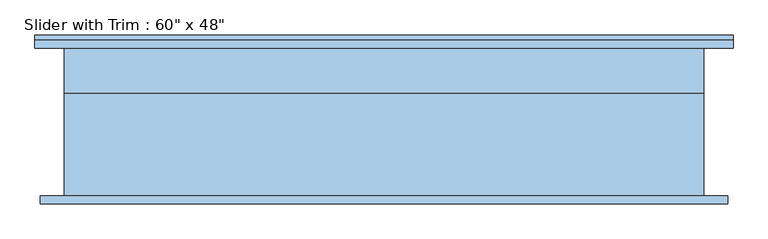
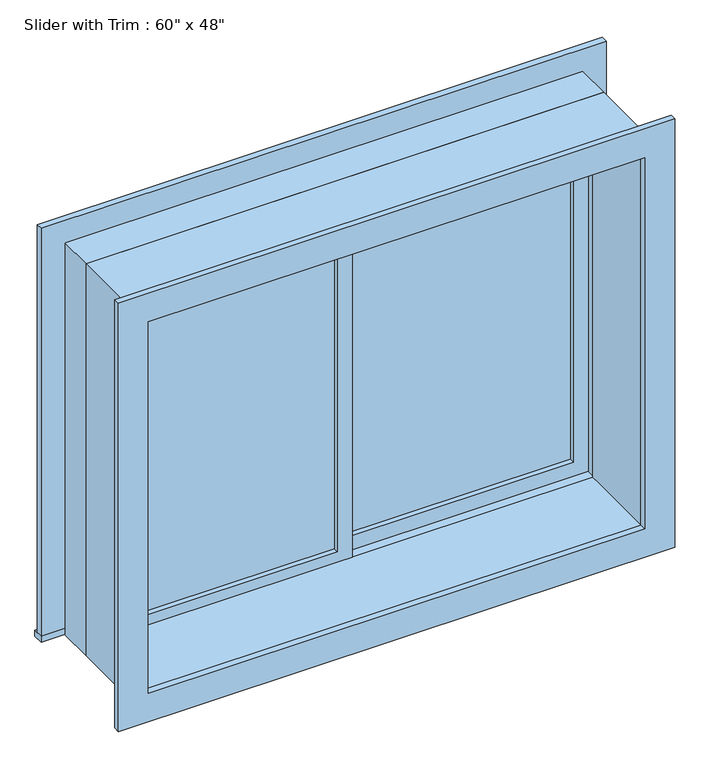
"""IFC4 building model written with IfcOpenShell, lengths in millimetres: window geometry."""

import ifcopenshell
import ifcopenshell.guid

model = None  # the IFC model being written
_history = None  # IfcOwnerHistory: only IFC2X3 demands one
_inside = {}  # id of a spatial element -> (the spatial element, [elements in it])
_under = {}  # id of a project, library or spatial element -> (it, [spatial elements below it])
_declared = {}  # id of a project -> (the project, [libraries it declares])
_typed = {}  # id of a type object -> (the type object, [elements of that type])
_made_of = {}  # id of a material, layer set ... -> (it, [elements and type objects made of it])


def new_model(schema):
    """Start an empty IFC model of exactly this schema.

    Asked for "IFC4X3", IfcOpenShell would pick the latest addendum, in which some entities
    have other attributes; the version numbers below select the first issue.
    IFC2X3 requires an IfcOwnerHistory on every rooted entity: one is made here for all.
    """
    global model, _history
    if schema == "IFC4X3":
        model = ifcopenshell.file(schema_version=(4, 3, 0, 0))
    else:
        model = ifcopenshell.file(schema=schema)
    _inside.clear()
    _under.clear()
    _declared.clear()
    _typed.clear()
    _made_of.clear()
    _history = None
    if model.schema == "IFC2X3":
        org = make("IfcOrganization", Name="unknown")
        user = make(
            "IfcPersonAndOrganization",
            ThePerson=make("IfcPerson", FamilyName="unknown"),
            TheOrganization=org,
        )
        app = make(
            "IfcApplication",
            ApplicationDeveloper=org,
            Version="unknown",
            ApplicationFullName="unknown",
            ApplicationIdentifier="unknown",
        )
        _history = make(
            "IfcOwnerHistory",
            OwningUser=user,
            OwningApplication=app,
            ChangeAction="ADDED",
            CreationDate=0,
        )
    return model


def make(cls, **values):
    """One entity of the class cls with the attributes given. An attribute that is None is left unset."""
    return model.create_entity(
        cls, **{name: value for name, value in values.items() if value is not None}
    )


def rooted(cls, **values):
    """An entity with a GlobalId (a new one), such as an element, a storey or a relation."""
    return make(cls, GlobalId=ifcopenshell.guid.new(), OwnerHistory=_history, **values)


def si_unit(unit_type, name, prefix=None):
    """IfcSIUnit, for example si_unit("LENGTHUNIT", "METRE", prefix="MILLI")."""
    return make("IfcSIUnit", UnitType=unit_type, Prefix=prefix, Name=name)


def assignment(units):
    """IfcUnitAssignment: the units of a project."""
    return None if units is None else make("IfcUnitAssignment", Units=units)


def point(xyz):
    """IfcCartesianPoint."""
    return None if xyz is None else make("IfcCartesianPoint", Coordinates=xyz)


def direction(xyz):
    """IfcDirection."""
    return None if xyz is None else make("IfcDirection", DirectionRatios=xyz)


def frame(location, z_axis=None, x_axis=None):
    """IfcAxis2Placement3D, a coordinate frame: its origin and axes. An axis left out is left unset."""
    return make(
        "IfcAxis2Placement3D",
        Location=point(location),
        Axis=direction(z_axis),
        RefDirection=direction(x_axis),
    )


def origin():
    """The frame at (0, 0, 0) with its axes left unset."""
    return frame((0.0, 0.0, 0.0))


def place(relative_to, where):
    """IfcLocalPlacement: puts the frame where relative to a parent placement (None: the world)."""
    return make(
        "IfcLocalPlacement", PlacementRelTo=relative_to, RelativePlacement=where
    )


def context(
    kind, dimensions, precision=None, world=None, true_north=None, identifier=None
):
    """IfcGeometricRepresentationContext, for example the 3D "Model" context."""
    return make(
        "IfcGeometricRepresentationContext",
        ContextIdentifier=identifier,
        ContextType=kind,
        CoordinateSpaceDimension=dimensions,
        Precision=precision,
        WorldCoordinateSystem=world,
        TrueNorth=true_north,
    )


def project(units=None, contexts=None):
    """IfcProject with its units and contexts."""
    return rooted(
        "IfcProject",
        Name="project",
        RepresentationContexts=contexts,
        UnitsInContext=assignment(units),
    )


def spatial(cls, under=None, at=None, **own):
    """A site, building, storey or space (cls), placed at a placement, below another one or the project."""
    s = rooted(cls, ObjectPlacement=at, **own)
    if under is not None:
        _under.setdefault(under.id(), (under, []))[1].append(s)
    return s


def polyline(points):
    """IfcPolyline through the points."""
    return make("IfcPolyline", Points=[point(p) for p in points])


def outline(outer, holes=None, kind="AREA"):
    """IfcArbitraryClosedProfileDef: a profile drawn as a closed curve; with holes, ...WithVoids."""
    if holes is None:
        return make("IfcArbitraryClosedProfileDef", ProfileType=kind, OuterCurve=outer)
    return make(
        "IfcArbitraryProfileDefWithVoids",
        ProfileType=kind,
        OuterCurve=outer,
        InnerCurves=holes,
    )


def extrude(swept, where, along, depth):
    """IfcExtrudedAreaSolid: the profile swept, set in the frame where, extruded along a direction by depth."""
    return make(
        "IfcExtrudedAreaSolid",
        SweptArea=swept,
        Position=where,
        ExtrudedDirection=direction(along),
        Depth=depth,
    )


def shape(context_of_items, identifier, shape_type, items):
    """IfcShapeRepresentation: the items that make up one representation, for example the "Body"."""
    return make(
        "IfcShapeRepresentation",
        ContextOfItems=context_of_items,
        RepresentationIdentifier=identifier,
        RepresentationType=shape_type,
        Items=items,
    )


def source(mapping_origin, context_of_items, identifier, shape_type, items):
    """IfcRepresentationMap: a shape defined once, which mapped items show again and again."""
    return make(
        "IfcRepresentationMap",
        MappingOrigin=mapping_origin,
        MappedRepresentation=shape(context_of_items, identifier, shape_type, items),
    )


def transform(
    local_origin,
    x_axis=None,
    y_axis=None,
    z_axis=None,
    scale=None,
    scale2=None,
    scale3=None,
    uniform=True,
):
    """IfcCartesianTransformationOperator3D, or its non-uniform kind. x_axis, y_axis, z_axis: its Axis1, 2, 3."""
    if uniform:
        return make(
            "IfcCartesianTransformationOperator3D",
            Axis1=direction(x_axis),
            Axis2=direction(y_axis),
            LocalOrigin=point(local_origin),
            Scale=scale,
            Axis3=direction(z_axis),
        )
    return make(
        "IfcCartesianTransformationOperator3DnonUniform",
        Axis1=direction(x_axis),
        Axis2=direction(y_axis),
        LocalOrigin=point(local_origin),
        Scale=scale,
        Axis3=direction(z_axis),
        Scale2=scale2,
        Scale3=scale3,
    )


def mapped(mapping_source, mapping_target):
    """IfcMappedItem: shows the shape of a source again, moved by a transform."""
    return make(
        "IfcMappedItem", MappingSource=mapping_source, MappingTarget=mapping_target
    )


def made_of(thing, what):
    """Note that an element or type object is made of a material, layer set ...; save() writes the relation."""
    if what is not None:
        _made_of.setdefault(what.id(), (what, []))[1].append(thing)
    return thing


def element(
    cls,
    number,
    at=None,
    inside=None,
    cuts=None,
    type_object=None,
    material=None,
    context=None,
    identifier="Body",
    shape_type=None,
    held_by="IfcProductDefinitionShape",
    body=None,
    shapes=None,
    **own,
):
    """One element of the class cls, such as IfcWall. Its Tag is "e" and its number.

    at: its placement. inside: the storey or other place that contains it. cuts: it is an
    opening in that element (IfcRelVoidsElement). A single representation is given by context,
    identifier, shape_type and body (its items); several are given by shapes. held_by: the class
    of the entity that holds the representations. save() writes the other relations.
    """
    e = rooted(cls, Tag="e%d" % number, ObjectPlacement=at, **own)
    if body is not None:
        shapes = [shape(context, identifier, shape_type, body)]
    if shapes is not None:
        e.Representation = make(held_by, Representations=shapes)
    if inside is not None:
        _inside.setdefault(inside.id(), (inside, []))[1].append(e)
    if cuts is not None:
        rooted(
            "IfcRelVoidsElement", RelatingBuildingElement=cuts, RelatedOpeningElement=e
        )
    if type_object is not None:
        _typed.setdefault(type_object.id(), (type_object, []))[1].append(e)
    return made_of(e, material)


def aggregate(whole, parts):
    """IfcRelAggregates: a whole, such as a stair, and the parts it consists of."""
    return rooted("IfcRelAggregates", RelatingObject=whole, RelatedObjects=parts)


def save(model, path):
    """Write the relations noted so far, then the file.

    IfcRelAggregates (storeys below a building ...), IfcRelContainedInSpatialStructure (elements
    in a storey), IfcRelDefinesByType, IfcRelAssociatesMaterial and IfcRelDeclares: one each for
    every whole, place, type object, material and project.
    """
    for whole, parts in _under.values():
        aggregate(whole, parts)
    for where, things in _inside.values():
        rooted(
            "IfcRelContainedInSpatialStructure",
            RelatedElements=things,
            RelatingStructure=where,
        )
    for kind, things in _typed.values():
        rooted("IfcRelDefinesByType", RelatedObjects=things, RelatingType=kind)
    for what, things in _made_of.values():
        rooted("IfcRelAssociatesMaterial", RelatedObjects=things, RelatingMaterial=what)
    for by, libraries in _declared.values():
        rooted("IfcRelDeclares", RelatingContext=by, RelatedDefinitions=libraries)
    model.write(path)


def window_8313e728(model_context):
    return source(origin(), model_context, "Body", "SweptSolid", [
        extrude(outline(polyline([(-698.5, 96.8375), (-22.225, 96.8375), (-22.225, 84.1375), (-698.5, 84.1375), (-698.5, 96.8375)])), frame((0.0, 0.0, 977.9), z_axis=(0.0, 0.0, 1.0), x_axis=(1.0, 0.0, 0.0)), (0.0, 0.0, 1.0), 1092.2),
        extrude(outline(polyline([(2114.55, -742.95), (933.45, -742.95), (933.45, 22.225), (2114.55, 22.225), (2114.55, -742.95)]), holes=[polyline([(2070.1, -698.5), (2070.1, -22.225), (977.9, -22.225), (977.9, -698.5), (2070.1, -698.5)])]), frame((0.0, 68.2625, 0.0), z_axis=(0.0, 1.0, 0.0), x_axis=(0.0, 0.0, 1.0)), (0.0, 0.0, 1.0), 44.45),
        extrude(outline(polyline([(-831.85, 207.9625), (831.85, 207.9625), (831.85, 176.2125), (-831.85, 176.2125), (-831.85, 207.9625)])), frame((0.0, 0.0, 914.4), z_axis=(0.0, 0.0, 1.0), x_axis=(1.0, 0.0, 0.0)), (0.0, 0.0, 1.0), 19.05),
        extrude(outline(polyline([(2114.55, -742.95), (2114.55, 742.95), (933.45, 742.95), (933.45, 831.85), (2203.45, 831.85), (2203.45, -831.85), (933.45, -831.85), (933.45, -742.95), (2114.55, -742.95)])), frame((0.0, 176.2125, 0.0), z_axis=(0.0, 1.0, 0.0), x_axis=(0.0, 0.0, 1.0)), (0.0, 0.0, 1.0), 19.05),
        extrude(outline(polyline([(2190.75, 819.15), (2190.75, -819.15), (857.25, -819.15), (857.25, 819.15), (2190.75, 819.15)]), holes=[polyline([(2101.85, 730.25), (946.15, 730.25), (946.15, -730.25), (2101.85, -730.25), (2101.85, 730.25)])]), frame((0.0, -195.2625, 0.0), z_axis=(0.0, 1.0, 0.0), x_axis=(0.0, 0.0, 1.0)), (0.0, 0.0, 1.0), 19.05),
        extrude(outline(polyline([(698.5, 128.5875), (22.225, 128.5875), (22.225, 141.2875), (698.5, 141.2875), (698.5, 128.5875)])), frame((0.0, 0.0, 977.9), z_axis=(0.0, 0.0, 1.0), x_axis=(1.0, 0.0, 0.0)), (0.0, 0.0, 1.0), 1092.2),
        extrude(outline(polyline([(2114.55, -22.225), (933.45, -22.225), (933.45, 742.95), (2114.55, 742.95), (2114.55, -22.225)]), holes=[polyline([(2070.1, 22.225), (2070.1, 698.5), (977.9, 698.5), (977.9, 22.225), (2070.1, 22.225)])]), frame((0.0, 112.7125, 0.0), z_axis=(0.0, 1.0, 0.0), x_axis=(0.0, 0.0, 1.0)), (0.0, 0.0, 1.0), 44.45),
        extrude(outline(polyline([(2133.6, -762.0), (914.4, -762.0), (914.4, 762.0), (2133.6, 762.0), (2133.6, -762.0)]), holes=[polyline([(2101.85, -730.25), (2101.85, 730.25), (946.15, 730.25), (946.15, -730.25), (2101.85, -730.25)])]), frame((0.0, -176.2125, 0.0), z_axis=(0.0, 1.0, 0.0), x_axis=(0.0, 0.0, 1.0)), (0.0, 0.0, 1.0), 244.475),
        extrude(outline(polyline([(2133.6, 762.0), (2133.6, -762.0), (914.4, -762.0), (914.4, 762.0), (2133.6, 762.0)]), holes=[polyline([(2114.55, 742.95), (933.45, 742.95), (933.45, -742.95), (2114.55, -742.95), (2114.55, 742.95)])]), frame((0.0, 68.2625, 0.0), z_axis=(0.0, 1.0, 0.0), x_axis=(0.0, 0.0, 1.0)), (0.0, 0.0, 1.0), 107.95),
    ])


if __name__ == "__main__":
    model = new_model("IFC4")
    model_context = context("Model", 3, world=origin())
    ifc_project = project(units=[si_unit("LENGTHUNIT", "METRE", prefix="MILLI")], contexts=[model_context])
    site = spatial("IfcSite", under=ifc_project)
    building = spatial("IfcBuilding", under=site)
    placement = place(None, origin())
    window_shape = window_8313e728(model_context)
    element("IfcWindow", 1, ObjectType="Slider with Trim : 60\" x 48\"", at=placement, inside=building, context=model_context, shape_type="MappedRepresentation", body=[
        mapped(window_shape, transform((0.0, 0.0, 0.0), x_axis=(1.0, 0.0, 0.0), y_axis=(0.0, 1.0, 0.0), z_axis=(0.0, 0.0, 1.0))),
    ])
    save(model, "model.ifc")
